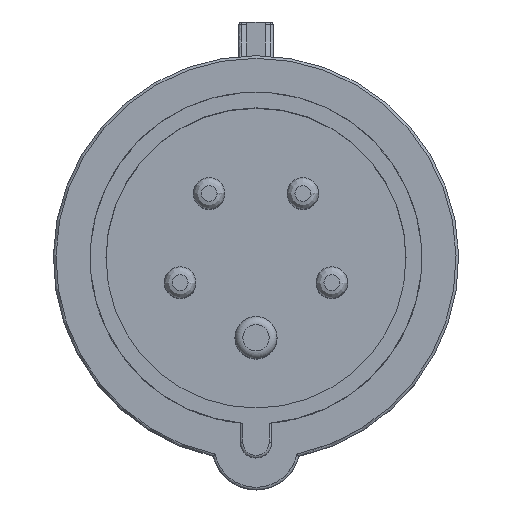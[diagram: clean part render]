
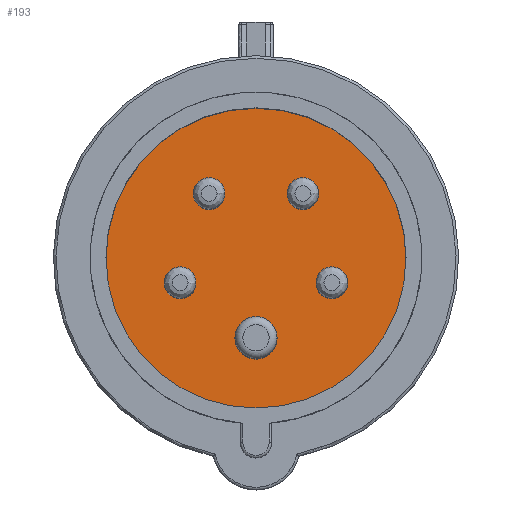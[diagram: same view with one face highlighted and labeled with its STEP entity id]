
A CAD part, top view. The second image highlights one B-rep face of the part: STEP entity #193.
In plain terms, the highlighted planar face has unit normal (0, 0, 1).
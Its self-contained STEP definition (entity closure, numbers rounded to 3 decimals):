
#193 = ADVANCED_FACE('',(#194),#214,.T.);
#194 = FACE_BOUND('',#195,.T.);
#195 = EDGE_LOOP('',(#196,#207));
#196 = ORIENTED_EDGE('',*,*,#197,.T.);
#197 = EDGE_CURVE('',#198,#200,#202,.T.);
#198 = VERTEX_POINT('',#199);
#199 = CARTESIAN_POINT('',(28.5,0.,0.));
#200 = VERTEX_POINT('',#201);
#201 = CARTESIAN_POINT('',(-28.5,0.,0.));
#202 = CIRCLE('',#203,28.5);
#203 = AXIS2_PLACEMENT_3D('',#204,#205,#206);
#204 = CARTESIAN_POINT('',(0.,0.,0.));
#205 = DIRECTION('',(0.,0.,1.));
#206 = DIRECTION('',(1.,0.,-0.));
#207 = ORIENTED_EDGE('',*,*,#208,.T.);
#208 = EDGE_CURVE('',#200,#198,#209,.T.);
#209 = CIRCLE('',#210,28.5);
#210 = AXIS2_PLACEMENT_3D('',#211,#212,#213);
#211 = CARTESIAN_POINT('',(0.,0.,0.));
#212 = DIRECTION('',(0.,0.,1.));
#213 = DIRECTION('',(-1.,0.,0.));
#214 = PLANE('',#215);
#215 = AXIS2_PLACEMENT_3D('',#216,#217,#218);
#216 = CARTESIAN_POINT('',(0.,0.,0.));
#217 = DIRECTION('',(0.,0.,1.));
#218 = DIRECTION('',(1.,0.,-0.));
